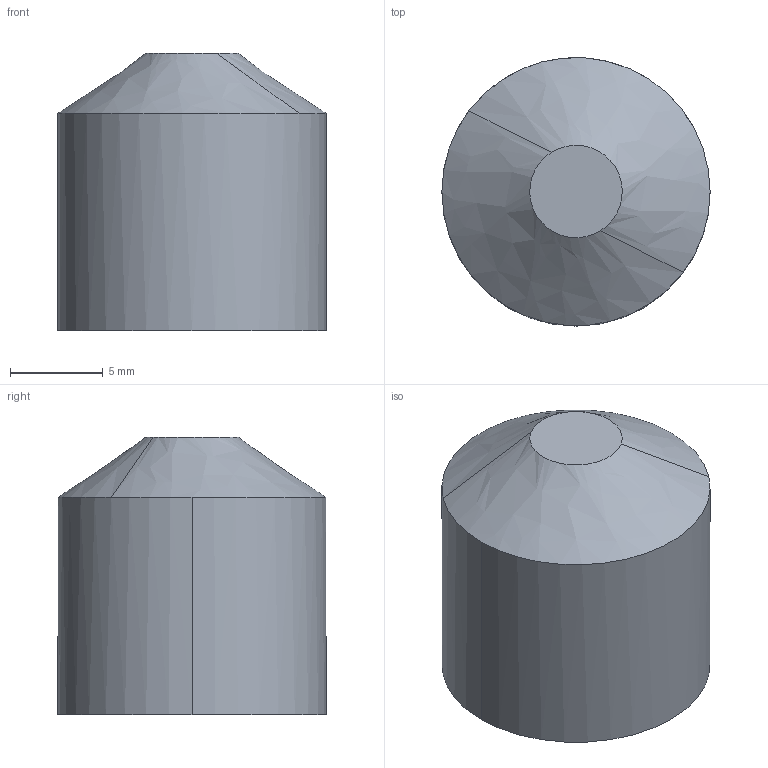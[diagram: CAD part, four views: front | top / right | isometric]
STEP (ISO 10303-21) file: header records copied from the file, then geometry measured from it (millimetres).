
FILE_DESCRIPTION (( 'STEP AP214' ), '1' );
FILE_NAME ('12钢棒端盖.STEP', '2019-10-31T07:54:18', ( '微软用户' ), ( '微软中国' ), 'SwSTEP 2.0', 'SolidWorks 2016', '' );
FILE_SCHEMA (( 'AUTOMOTIVE_DESIGN' ));
Length unit declared in the file: millimetre
Products named in the file (1): 12詩堵傷裔
Bounding box: 14.5 x 14.5 x 15 mm (x, y, z)
Volume: 891.4 mm3; surface area: 1335.1 mm2
Topology: 1 solids, 1 shells, 9 faces, 18 edges, 12 vertices
Faces by surface type: cylinder 4, plane 3, bspline 2
Entity records: 294 total; most frequent: CARTESIAN_POINT 68, DIRECTION 44, ORIENTED_EDGE 36, AXIS2_PLACEMENT_3D 20, EDGE_CURVE 18, CIRCLE 12, VERTEX_POINT 12, EDGE_LOOP 10
